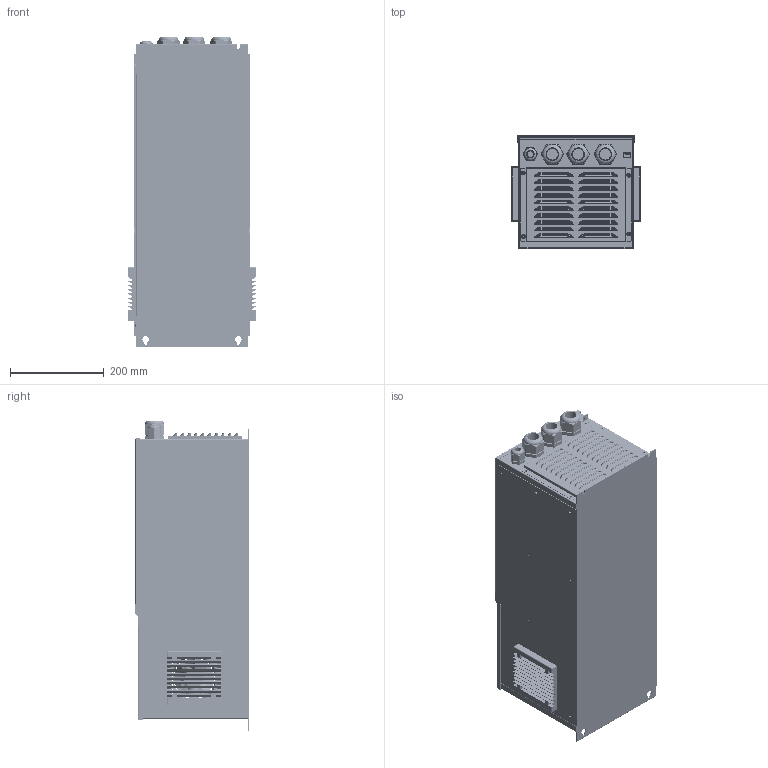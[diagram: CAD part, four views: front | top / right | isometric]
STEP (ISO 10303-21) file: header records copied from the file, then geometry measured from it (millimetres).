
FILE_DESCRIPTION(/* description */ (''),/* implementation_level */ '2;1');
FILE_NAME(/* name */ '\\ad.baltenergomash.ru\office\БЭМ\Personal\Абрамов\!ПКИ\Новая папка\VEDA-T3-22G_3D_адаптированная.stp',/* time_stamp */ '2023-06-26T07:18:28+03:00',/* author */ ('a.abramov'),/* organization */ (''),/* preprocessor_version */ 'ST-DEVELOPER v18.1',/* originating_system */ 'Autodesk Inventor 2022',/* authorisation */ '');
FILE_SCHEMA (('AUTOMOTIVE_DESIGN { 1 0 10303 214 3 1 1 }'));
Products named in the file (57): 000-veda-t3-022g-b54_asm; AC300-T3-5R5G-0000_SKEL0001; VEDA-T3-022G-B54-P_ASM; VEDA-T3-022G-B54-P001_ASM; VEDA-T3-022G-B54-P016_ASM; VEDA-T3-022G-B54-P016P; TPS-4-8; VEDA-T3-022G-B54-P018_ASM; VEDA-T3-022G-B54-P018P; S-M4-1; VEDA-T3-022G-B54-P010_ASM; VEDA-T3-022G-B54-P010P; Деталь106; VEDA-T3-022G-B54-P003_ASM; VEDA-T3-022G-B54-P017_ASM; VEDA-T3-022G-B54-P017P; BSO-3_5M3-18; SO-M4-3; VEDA-T3-022G-B54-P002; VEDA-T3-022G-B54-P004; VEDA-T3-022G-B54-P015_ASM; VEDA-T3-022G-B54-P015P; VEDA-T3-022G-B54-P005_ASM; VEDA-T3-022G-B54-P006_ASM; VEDA-T3-022G-B54-P006P; VEDA-T3-022G-B54-P007; VEDA-T3-022G-B54-P009; VEDA-T3-022G-B54-P008; VEDA-T3-022G-B54-P005SY; VEDA-T3-022G-B54-P011_ASM; VEDA-T3-022G-B54-P011P; VEDA-T3-022G-B54-P012_ASM; VEDA-T3-022G-B54-P012P; S-M5-1; VEDA-T3-022G-B54-D_ASM; VEDA-T3-022G-B54-F001; VEDA-T3-022G-B54-N001; PG-16B; PG-29B; P24W120-A1_1-1420050089_ASM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
Assembly tree (99 placements, depth 5):
  000-veda-t3-022g-b54_asm
    AC300-T3-5R5G-0000_SKEL0001
    VEDA-T3-022G-B54-P_ASM
      VEDA-T3-022G-B54-P001_ASM
        VEDA-T3-022G-B54-P016_ASM
          VEDA-T3-022G-B54-P016P
          SO-M4-3  x13
          S-M4-1  x4
          TPS-4-8  x4
        VEDA-T3-022G-B54-P002
        VEDA-T3-022G-B54-P018_ASM
          VEDA-T3-022G-B54-P018P
          S-M4-1
        VEDA-T3-022G-B54-P015_ASM  x2
          VEDA-T3-022G-B54-P015P
        VEDA-T3-022G-B54-P010_ASM  x2
          VEDA-T3-022G-B54-P010P
          S-M5-1
        Деталь106
      VEDA-T3-022G-B54-P003_ASM
        VEDA-T3-022G-B54-P017_ASM
          VEDA-T3-022G-B54-P017P
          SO-M4-3  x2
          BSO-3_5M3-18  x5
        VEDA-T3-022G-B54-P002
        VEDA-T3-022G-B54-P004
        VEDA-T3-022G-B54-P015_ASM  x3
          VEDA-T3-022G-B54-P015P
      VEDA-T3-022G-B54-P005_ASM
        VEDA-T3-022G-B54-P006_ASM
          VEDA-T3-022G-B54-P006P
        VEDA-T3-022G-B54-P007
        VEDA-T3-022G-B54-P009
        VEDA-T3-022G-B54-P008  x2
        VEDA-T3-022G-B54-P005SY
      VEDA-T3-022G-B54-P011_ASM
        VEDA-T3-022G-B54-P011P
      VEDA-T3-022G-B54-P012_ASM
        VEDA-T3-022G-B54-P012P
        S-M5-1  x4
    VEDA-T3-022G-B54-D_ASM
      VEDA-T3-022G-B54-F001
      VEDA-T3-022G-B54-N001
      PG-16B
      PG-29B  x3
      P24W120-A1_1-1420050089_ASM
        P24W120-A1_1
        ELT-VH-4P-3_96_ASM
          ELT-VH-4A-3_96
          ELT-VH-4Y-3_96
        ELT-VH-2P-3_96_ASM
          ELT-VH-2A-3_96
          ELT-VH-2Y-3_96
        ELT-XHS-2P-2_5_ASM  x3
          ELT-XHS-2A-2_5
          ELT-XHS-2Y-2_5
        ELT-XHS-6P-2_5_ASM
          ELT-XHS-6A-2_5
          ELT-XHS-6Y-2_5
      ZL-9238  x2
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Bounding box: 275 x 242 x 664.19 mm (x, y, z)
Volume: 2029278.8 mm3; surface area: 2227570.8 mm2
Topology: 100 solids, 120 shells, 7026 faces, 18171 edges, 11549 vertices
Faces by surface type: plane 5066, cylinder 971, bspline 561, cone 226, torus 194, sphere 8
Full cylindrical faces by diameter (mm): 0.445 x1, 0.572 x3, 0.762 x5, 0.8 x36, 0.889 x3, 0.9 x1, 1.27 x2, 1.397 x1, 2 x4, 2.5 x5, 3 x5, 3.3 x15, 3.6 x5, 3.716 x1, 4 x23, 4.2 x4, 4.3 x16, 4.39 x5, 4.5 x13, 4.72 x8, 4.99 x10, 5 x13, 5.32 x4, 5.38 x5, 5.39 x15, 5.4 x10, 5.5 x2, 5.9 x5, 6 x14, 6.12 x19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
Entity records: 150554 total; most frequent: CARTESIAN_POINT 42764, ORIENTED_EDGE 20770, DIRECTION 19428, EDGE_CURVE 10387, LINE 7568, VECTOR 7568, VERTEX_POINT 6522, AXIS2_PLACEMENT_3D 5930
